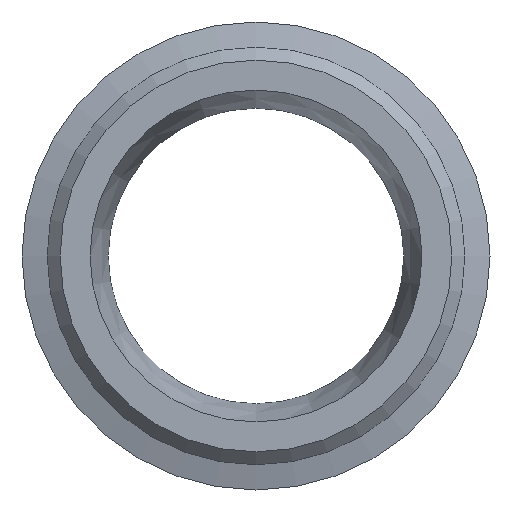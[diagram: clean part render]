
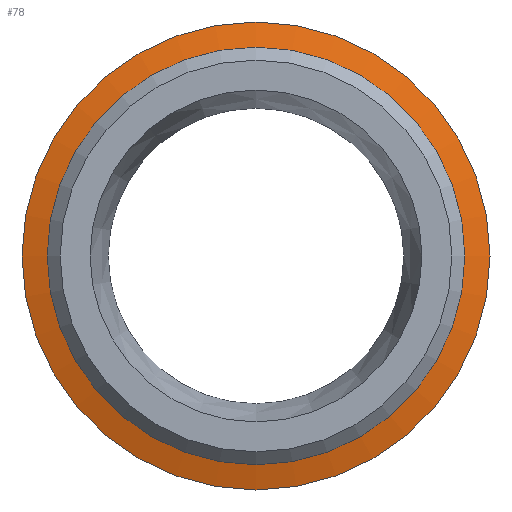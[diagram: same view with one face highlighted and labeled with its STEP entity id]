
A CAD part, left-side view. The second image highlights one B-rep face of the part: STEP entity #78.
In plain terms, the highlighted conical face has half-angle 75 degrees and reference radius 8.476 mm.
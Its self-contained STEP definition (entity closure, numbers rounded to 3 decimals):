
#78=ADVANCED_FACE('',(#97,#98),#99,.T.);
#97=FACE_OUTER_BOUND('',#133,.T.);
#98=FACE_BOUND('',#134,.T.);
#99=CONICAL_SURFACE('',#135,8.475,1.309);
#133=EDGE_LOOP('',(#175));
#134=EDGE_LOOP('',(#176));
#135=AXIS2_PLACEMENT_3D('',#177,#178,#179);
#175=ORIENTED_EDGE('',*,*,#224,.T.);
#176=ORIENTED_EDGE('',*,*,#223,.F.);
#177=CARTESIAN_POINT('',(0.525,0.0,0.0));
#178=DIRECTION('',(1.0,-0.0,0.0));
#179=DIRECTION('',(0.0,0.0,-1.0));
#223=EDGE_CURVE('',#238,#238,#239,.T.);
#224=EDGE_CURVE('',#240,#240,#241,.T.);
#238=VERTEX_POINT('',#262);
#239=CIRCLE('',#263,8.475);
#240=VERTEX_POINT('',#264);
#241=CIRCLE('',#265,9.5);
#262=CARTESIAN_POINT('',(0.525,0.0,8.475));
#263=AXIS2_PLACEMENT_3D('',#289,#290,#291);
#264=CARTESIAN_POINT('',(0.8,0.0,9.5));
#265=AXIS2_PLACEMENT_3D('',#292,#293,#294);
#289=CARTESIAN_POINT('',(0.525,0.0,0.0));
#290=DIRECTION('',(-1.0,0.0,0.0));
#291=DIRECTION('',(0.0,0.0,1.0));
#292=CARTESIAN_POINT('',(0.8,0.0,0.0));
#293=DIRECTION('',(-1.0,0.0,0.0));
#294=DIRECTION('',(0.0,0.0,1.0));
